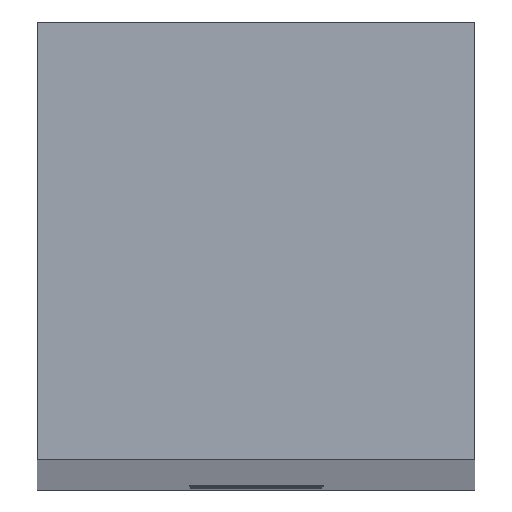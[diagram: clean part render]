
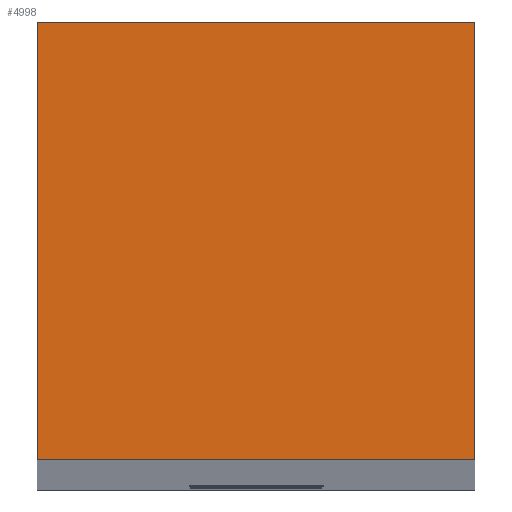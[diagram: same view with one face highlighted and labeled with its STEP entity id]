
A CAD part, top view. The second image highlights one B-rep face of the part: STEP entity #4998.
In plain terms, the highlighted planar face has unit normal (0, 0, 1).
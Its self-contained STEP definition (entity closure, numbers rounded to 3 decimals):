
#149 = ORIENTED_EDGE ( 'NONE', *, *, #5929, .F. ) ;
#316 = CARTESIAN_POINT ( 'NONE',  ( 110., -155., 436. ) ) ;
#368 = CARTESIAN_POINT ( 'NONE',  ( 136., -200., 436. ) ) ;
#484 = VECTOR ( 'NONE', #5272, 1000. ) ;
#810 = CARTESIAN_POINT ( 'NONE',  ( 100., -180., 436. ) ) ;
#830 = VERTEX_POINT ( 'NONE', #4720 ) ;
#866 = FACE_OUTER_BOUND ( 'NONE', #2345, .T. ) ;
#1432 = DIRECTION ( 'NONE',  ( -1., 0., 0. ) ) ;
#1893 = DIRECTION ( 'NONE',  ( -1., 0., 0. ) ) ;
#2022 = EDGE_CURVE ( 'NONE', #6346, #830, #5300, .T. ) ;
#2148 = VECTOR ( 'NONE', #3302, 1000. ) ;
#2345 = EDGE_LOOP ( 'NONE', ( #149, #3413, #2695, #3170 ) ) ;
#2584 = CARTESIAN_POINT ( 'NONE',  ( 100., -170., 436. ) ) ;
#2695 = ORIENTED_EDGE ( 'NONE', *, *, #4939, .F. ) ;
#2730 = CARTESIAN_POINT ( 'NONE',  ( 136., -170., 436. ) ) ;
#2881 = PLANE ( 'NONE',  #5913 ) ;
#2996 = VECTOR ( 'NONE', #1893, 1000. ) ;
#3158 = VERTEX_POINT ( 'NONE', #2584 ) ;
#3170 = ORIENTED_EDGE ( 'NONE', *, *, #2022, .F. ) ;
#3302 = DIRECTION ( 'NONE',  ( 0., -1., 0. ) ) ;
#3413 = ORIENTED_EDGE ( 'NONE', *, *, #5166, .F. ) ;
#3415 = CARTESIAN_POINT ( 'NONE',  ( 116., -180., 436. ) ) ;
#3705 = CARTESIAN_POINT ( 'NONE',  ( 100., -200., 436. ) ) ;
#4205 = LINE ( 'NONE', #2730, #6248 ) ;
#4215 = VERTEX_POINT ( 'NONE', #810 ) ;
#4720 = CARTESIAN_POINT ( 'NONE',  ( 110., -180., 436. ) ) ;
#4939 = EDGE_CURVE ( 'NONE', #830, #4215, #6395, .T. ) ;
#4998 = ADVANCED_FACE ( 'NONE', ( #866 ), #2881, .F. ) ;
#5166 = EDGE_CURVE ( 'NONE', #4215, #3158, #5374, .T. ) ;
#5272 = DIRECTION ( 'NONE',  ( 0., 1., 0. ) ) ;
#5300 = LINE ( 'NONE', #316, #2148 ) ;
#5374 = LINE ( 'NONE', #3705, #484 ) ;
#5783 = DIRECTION ( 'NONE',  ( 1., 0., 0. ) ) ;
#5913 = AXIS2_PLACEMENT_3D ( 'NONE', #368, #6490, #1432 ) ;
#5929 = EDGE_CURVE ( 'NONE', #3158, #6346, #4205, .T. ) ;
#6248 = VECTOR ( 'NONE', #5783, 1000. ) ;
#6346 = VERTEX_POINT ( 'NONE', #6545 ) ;
#6395 = LINE ( 'NONE', #3415, #2996 ) ;
#6490 = DIRECTION ( 'NONE',  ( 0., 0., -1. ) ) ;
#6545 = CARTESIAN_POINT ( 'NONE',  ( 110., -170., 436. ) ) ;
